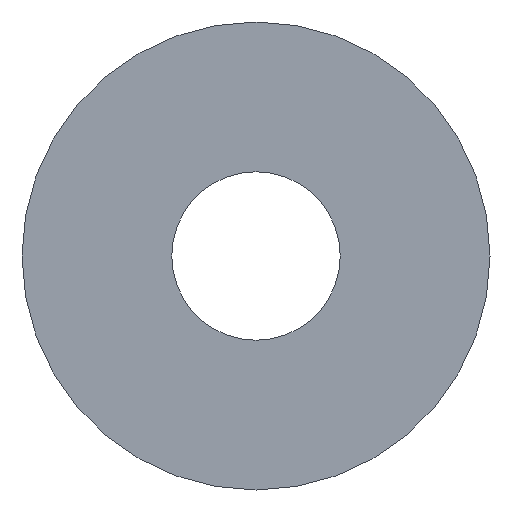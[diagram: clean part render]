
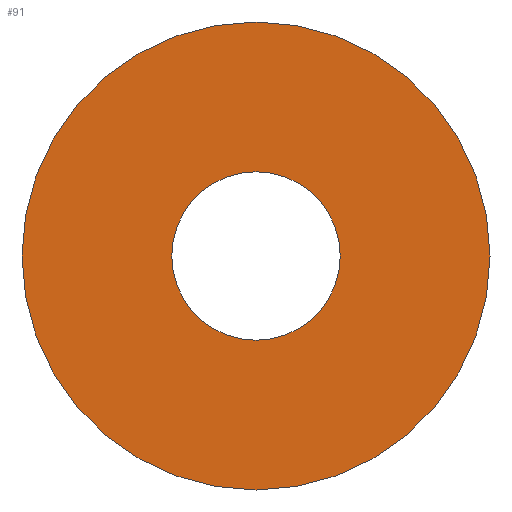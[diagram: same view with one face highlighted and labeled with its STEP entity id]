
A CAD part, front view. The second image highlights one B-rep face of the part: STEP entity #91.
In plain terms, the highlighted planar face has unit normal (0, -1, 0).
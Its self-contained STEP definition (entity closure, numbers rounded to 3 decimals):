
#2=CARTESIAN_POINT('',(0.,0.,0.));
#3=DIRECTION('',(0.,-1.,0.));
#4=DIRECTION('',(1.,0.,0.));
#5=AXIS2_PLACEMENT_3D('',#2,#3,#4);
#7=CARTESIAN_POINT('',(0.,0.,0.));
#8=DIRECTION('',(0.,-1.,0.));
#9=DIRECTION('',(-1.,0.,0.));
#10=AXIS2_PLACEMENT_3D('',#7,#8,#9);
#12=CARTESIAN_POINT('',(0.,0.,0.));
#13=DIRECTION('',(0.,1.,0.));
#14=DIRECTION('',(1.,0.,0.));
#15=AXIS2_PLACEMENT_3D('',#12,#13,#14);
#17=CARTESIAN_POINT('',(0.,0.,0.));
#18=DIRECTION('',(0.,1.,0.));
#19=DIRECTION('',(-1.,0.,0.));
#20=AXIS2_PLACEMENT_3D('',#17,#18,#19);
#58=CARTESIAN_POINT('',(4.5,0.,0.));
#59=CARTESIAN_POINT('',(-4.5,0.,0.));
#60=VERTEX_POINT('',#58);
#61=VERTEX_POINT('',#59);
#62=CARTESIAN_POINT('',(12.5,0.,0.));
#63=CARTESIAN_POINT('',(-12.5,0.,0.));
#64=VERTEX_POINT('',#62);
#65=VERTEX_POINT('',#63);
#74=CARTESIAN_POINT('',(0.,0.,0.));
#75=DIRECTION('',(0.,1.,0.));
#76=DIRECTION('',(1.,0.,0.));
#77=AXIS2_PLACEMENT_3D('',#74,#75,#76);
#78=PLANE('',#77);
#80=ORIENTED_EDGE('',*,*,#79,.T.);
#82=ORIENTED_EDGE('',*,*,#81,.T.);
#83=EDGE_LOOP('',(#80,#82));
#84=FACE_OUTER_BOUND('',#83,.F.);
#86=ORIENTED_EDGE('',*,*,#85,.T.);
#88=ORIENTED_EDGE('',*,*,#87,.T.);
#89=EDGE_LOOP('',(#86,#88));
#90=FACE_BOUND('',#89,.F.);
#91=ADVANCED_FACE('',(#84,#90),#78,.F.);
#6=CIRCLE('',#5,4.5);
#11=CIRCLE('',#10,4.5);
#16=CIRCLE('',#15,12.5);
#21=CIRCLE('',#20,12.5);
#79=EDGE_CURVE('',#64,#65,#16,.T.);
#81=EDGE_CURVE('',#65,#64,#21,.T.);
#85=EDGE_CURVE('',#60,#61,#6,.T.);
#87=EDGE_CURVE('',#61,#60,#11,.T.);
